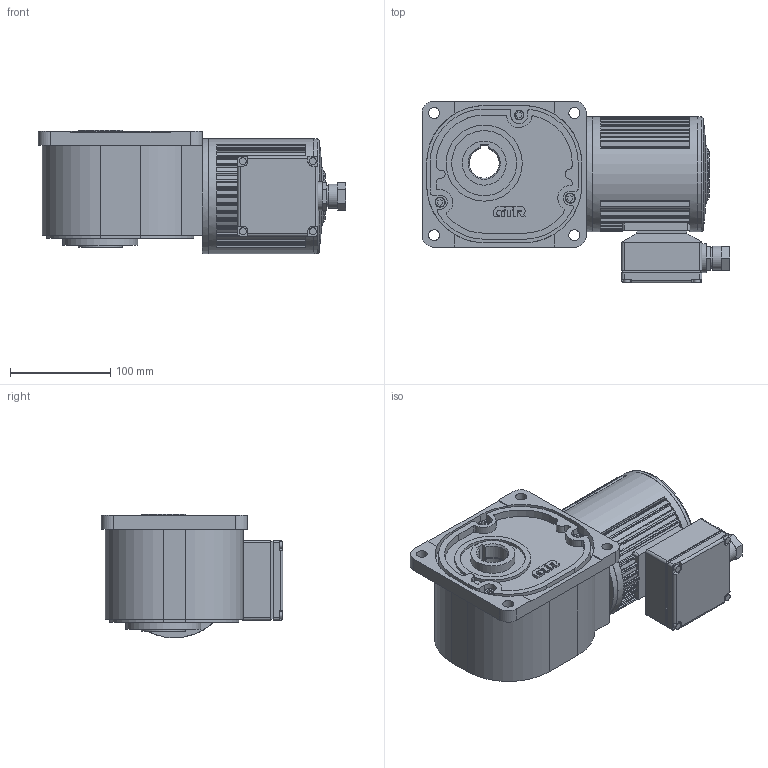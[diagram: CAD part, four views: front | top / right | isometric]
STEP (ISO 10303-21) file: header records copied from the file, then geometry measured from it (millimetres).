
FILE_DESCRIPTION( ( 'STEP AP203' ), ' ' );
FILE_NAME( 'p:/temp/worker_82/1156_3344/app_90_12017041501585578604941260eae72_000000_00_00_000000/format_0/FS30N5N-IPG020NENNone.stp', '2017-04-14T23:58:57', ( '' ), ( '' ), ' ', 'PARTsolutions', ' ' );
FILE_SCHEMA( ( 'CONFIG_CONTROL_DESIGN' ) );
Length unit declared in the file: millimetre
Products named in the file (5): FS30N5N-IPG020NENNone; _FS30; HI_T010; _010M; _E-BOX020
Assembly tree (4 placements, depth 2):
  FS30N5N-IPG020NENNone
    _FS30
    HI_T010
    _010M
    _E-BOX020
Bounding box: 307.5 x 181.5 x 123.5 mm (x, y, z)
Volume: 3454630.8 mm3; surface area: 264278.8 mm2
Topology: 4 solids, 4 shells, 602 faces, 1587 edges, 1047 vertices
Faces by surface type: plane 323, cylinder 269, torus 6, cone 3, bspline 1
Full cylindrical faces by diameter (mm): 6.6 x4, 7 x4, 9.5 x1, 10 x2, 11 x4, 12 x1, 21 x1, 24 x1, 29 x1, 44 x2, 65 x2, 75 x1, 76 x1, 114.5 x1, 115 x2
Entity records: 18807 total; most frequent: DIRECTION 3376, CARTESIAN_POINT 3283, ORIENTED_EDGE 3094, EDGE_CURVE 1547, AXIS2_PLACEMENT_3D 1232, VERTEX_POINT 1043, LINE 912, VECTOR 912
